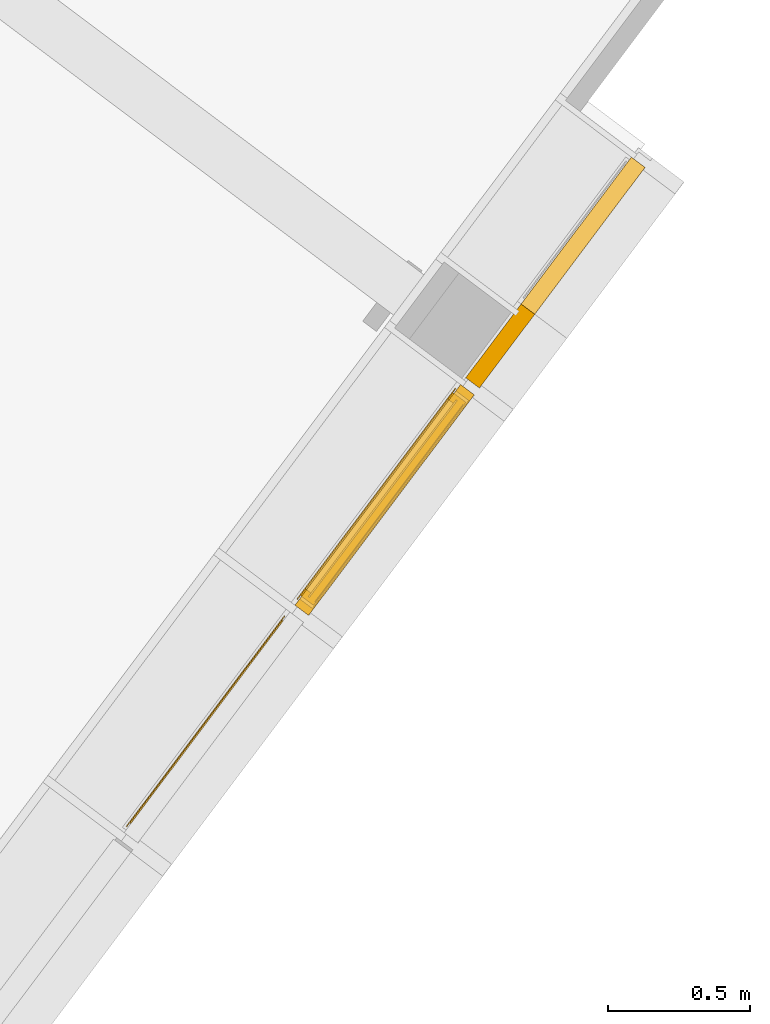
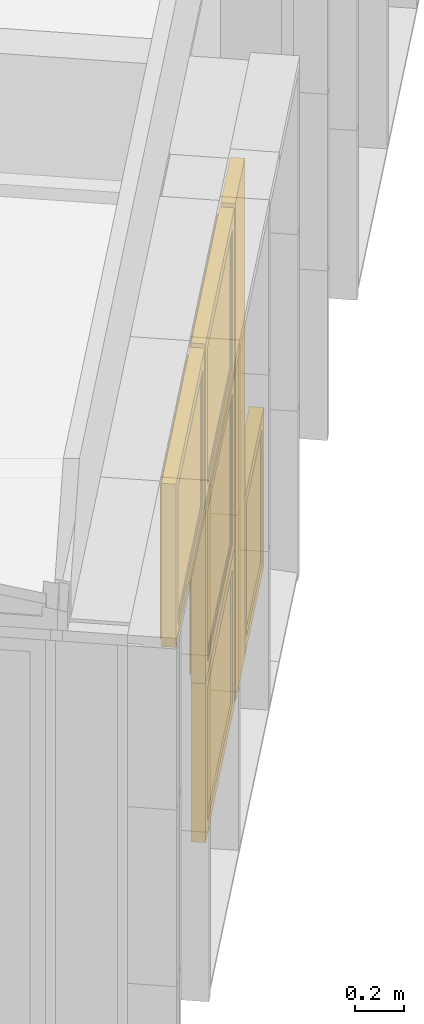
# One storey, part 144 of 243: 5 windows, 1 door, 1 element without a shape of its own.
"""IFC2X3 building model written with IfcOpenShell, lengths in metres."""

from ifc_helpers import new_model, entity, si_unit, converted_unit, derived_unit, direction, frame, origin, origin_2d_with_axis, place, context, subcontext, project, spatial, rectangle, extrude, faceted_brep, source, transform, mapped, material, material_list, type_object, type_shapes, element, aggregate, save


model = new_model("IFC2X3")

# Units and contexts
model_context = context("Model", 3, precision=1e-05, world=origin(), true_north=direction((6.123031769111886e-17, 1.0)))
body_context = subcontext(model_context, "Body", "Model", "MODEL_VIEW")
ifc_project = project(units=[si_unit("LENGTHUNIT", "METRE"), si_unit("AREAUNIT", "SQUARE_METRE"), si_unit("VOLUMEUNIT", "CUBIC_METRE"), converted_unit("PLANEANGLEUNIT", "DEGREE", entity("IfcRatioMeasure", 0.017453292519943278), si_unit("PLANEANGLEUNIT", "RADIAN"), dimensions=[0, 0, 0, 0, 0, 0, 0]), si_unit("MASSUNIT", "GRAM", prefix="KILO"), derived_unit("MASSDENSITYUNIT", [(si_unit("MASSUNIT", "GRAM", prefix="KILO"), 1), (si_unit("LENGTHUNIT", "METRE"), -3)]), derived_unit("IONCONCENTRATIONUNIT", [(si_unit("MASSUNIT", "GRAM", prefix="KILO"), 1), (si_unit("LENGTHUNIT", "METRE"), -3)]), derived_unit("MOMENTOFINERTIAUNIT", [(si_unit("LENGTHUNIT", "METRE"), 4)]), si_unit("TIMEUNIT", "SECOND"), si_unit("FREQUENCYUNIT", "HERTZ"), si_unit("THERMODYNAMICTEMPERATUREUNIT", "DEGREE_CELSIUS"), derived_unit("THERMALTRANSMITTANCEUNIT", [(si_unit("MASSUNIT", "GRAM", prefix="KILO"), 1), (si_unit("THERMODYNAMICTEMPERATUREUNIT", "KELVIN"), -1), (si_unit("TIMEUNIT", "SECOND"), -3)]), derived_unit("THERMALCONDUCTANCEUNIT", [(si_unit("MASSUNIT", "GRAM", prefix="KILO"), 1), (si_unit("THERMODYNAMICTEMPERATUREUNIT", "KELVIN"), -1), (si_unit("TIMEUNIT", "SECOND"), -3), (si_unit("LENGTHUNIT", "METRE"), 1)]), derived_unit("VOLUMETRICFLOWRATEUNIT", [(si_unit("LENGTHUNIT", "METRE"), 3), (si_unit("TIMEUNIT", "SECOND"), -1)]), derived_unit("MASSFLOWRATEUNIT", [(si_unit("MASSUNIT", "GRAM", prefix="KILO"), 1), (si_unit("TIMEUNIT", "SECOND"), -1)]), derived_unit("ROTATIONALFREQUENCYUNIT", [(si_unit("TIMEUNIT", "SECOND"), -1)]), si_unit("ELECTRICCURRENTUNIT", "AMPERE"), si_unit("ELECTRICVOLTAGEUNIT", "VOLT"), si_unit("POWERUNIT", "WATT"), si_unit("FORCEUNIT", "NEWTON", prefix="KILO"), si_unit("ILLUMINANCEUNIT", "LUX"), si_unit("LUMINOUSFLUXUNIT", "LUMEN"), si_unit("LUMINOUSINTENSITYUNIT", "CANDELA"), derived_unit("USERDEFINED", [(si_unit("MASSUNIT", "GRAM", prefix="KILO"), -1), (si_unit("LENGTHUNIT", "METRE"), -2), (si_unit("TIMEUNIT", "SECOND"), 3), (si_unit("LUMINOUSFLUXUNIT", "LUMEN"), 1)]), derived_unit("USERDEFINED", [(si_unit("MASSUNIT", "GRAM", prefix="KILO"), 1), (si_unit("TIMEUNIT", "SECOND"), -3), (si_unit("LENGTHUNIT", "METRE"), 3), (si_unit("ELECTRICCURRENTUNIT", "AMPERE"), -2)]), derived_unit("SOUNDPOWERUNIT", [(si_unit("MASSUNIT", "GRAM", prefix="KILO"), 1), (si_unit("TIMEUNIT", "SECOND"), -3), (si_unit("LENGTHUNIT", "METRE"), 2)]), derived_unit("SOUNDPRESSUREUNIT", [(si_unit("MASSUNIT", "GRAM", prefix="KILO"), 1), (si_unit("LENGTHUNIT", "METRE"), -1), (si_unit("TIMEUNIT", "SECOND"), -2)]), derived_unit("LINEARVELOCITYUNIT", [(si_unit("LENGTHUNIT", "METRE"), 1), (si_unit("TIMEUNIT", "SECOND"), -1)]), si_unit("PRESSUREUNIT", "PASCAL"), derived_unit("USERDEFINED", [(si_unit("MASSUNIT", "GRAM", prefix="KILO"), 1), (si_unit("LENGTHUNIT", "METRE"), -2), (si_unit("TIMEUNIT", "SECOND"), -2)]), derived_unit("LINEARFORCEUNIT", [(si_unit("MASSUNIT", "GRAM", prefix="KILO"), 1), (si_unit("TIMEUNIT", "SECOND"), -2)]), derived_unit("PLANARFORCEUNIT", [(si_unit("MASSUNIT", "GRAM", prefix="KILO"), 1), (si_unit("LENGTHUNIT", "METRE"), -1), (si_unit("TIMEUNIT", "SECOND"), -2)]), derived_unit("SPECIFICHEATCAPACITYUNIT", [(si_unit("THERMODYNAMICTEMPERATUREUNIT", "KELVIN"), -1), (si_unit("LENGTHUNIT", "METRE"), 2), (si_unit("TIMEUNIT", "SECOND"), -2)]), derived_unit("HEATINGVALUEUNIT", [(si_unit("LENGTHUNIT", "METRE"), 2), (si_unit("TIMEUNIT", "SECOND"), -2)]), derived_unit("VAPORPERMEABILITYUNIT", [(si_unit("LENGTHUNIT", "METRE"), -1), (si_unit("TIMEUNIT", "SECOND"), 1)]), derived_unit("DYNAMICVISCOSITYUNIT", [(si_unit("MASSUNIT", "GRAM", prefix="KILO"), 1), (si_unit("TIMEUNIT", "SECOND"), -1), (si_unit("LENGTHUNIT", "METRE"), -1)]), derived_unit("THERMALEXPANSIONCOEFFICIENTUNIT", [(si_unit("THERMODYNAMICTEMPERATUREUNIT", "KELVIN"), -1)]), derived_unit("MODULUSOFELASTICITYUNIT", [(si_unit("MASSUNIT", "GRAM", prefix="KILO"), 1), (si_unit("LENGTHUNIT", "METRE"), -1), (si_unit("TIMEUNIT", "SECOND"), -2)]), derived_unit("ISOTHERMALMOISTURECAPACITYUNIT", [(si_unit("LENGTHUNIT", "METRE"), 3), (si_unit("MASSUNIT", "GRAM", prefix="KILO"), -1)]), derived_unit("MOISTUREDIFFUSIVITYUNIT", [(si_unit("TIMEUNIT", "SECOND"), -1), (si_unit("LENGTHUNIT", "METRE"), 2)])], contexts=[model_context])

# Site, building, storey
site_placement = place(None, frame((0.0, 0.0, 235.0), z_axis=(0.0, 0.0, 1.0), x_axis=(-0.7996477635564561, 0.6004693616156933, 0.0)))
site = spatial("IfcSite", under=ifc_project, at=site_placement, Name="Default", CompositionType="ELEMENT")
building_placement = place(site_placement, origin())
building = spatial("IfcBuilding", under=site, at=building_placement, CompositionType="ELEMENT")
storey_placement = place(building_placement, origin())
storey = spatial("IfcBuildingStorey", under=building, at=storey_placement, Name="P0- Escola", CompositionType="ELEMENT", Elevation=0.0)

# Curtain wall, windows, door
curtain_wall_type = type_object("IfcCurtainWallType", Name="Muro cortina:MC- EXT- MC2", PredefinedType="NOTDEFINED")
curtain_wall_placement = place(storey_placement, origin())
curtain_wall = element("IfcCurtainWall", 1, at=curtain_wall_placement, inside=storey, type_object=curtain_wall_type, Name="Muro cortina:MC- EXT- MC2", ObjectType="Muro cortina:MC- EXT- MC2")
ifc_material_1 = material(Name="_Vidre")
ifc_material_2 = material(Name="_Alumini- T1- Perfil")
ifc_material_list_1 = material_list([ifc_material_1, ifc_material_2])
window_style_1 = type_object("IfcWindowStyle", Name="MC- Alu- Conjunt vidre fix- 62x60 cm:MC- Alu- Conjunt vidre fix- 62x60 cm", ConstructionType="NOTDEFINED", OperationType="NOTDEFINED", ParameterTakesPrecedence=False, Sizeable=False, material=ifc_material_list_1)
shared_shape_1 = source(origin(), body_context, "Body", "Brep", [
    faceted_brep([(0.4361932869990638, -0.007600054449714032, 0.048806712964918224), (0.4361932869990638, -0.03160022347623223, 0.048806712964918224), (-0.4361932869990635, -0.03160022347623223, 0.048806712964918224), (-0.4361932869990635, -0.007600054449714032, 0.048806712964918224), (0.4361932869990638, -0.007600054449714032, 0.7387000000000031), (-0.4361932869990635, -0.007600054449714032, 0.7387000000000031), (-0.4361932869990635, -0.03160022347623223, 0.7387000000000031), (0.4361932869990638, -0.03160022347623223, 0.7387000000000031)], [[[0, 1, 2, 3]], [[4, 0, 3, 5]], [[5, 3, 2, 6]], [[6, 2, 1, 7]], [[7, 1, 0, 4]], [[4, 5, 6, 7]]]),
    faceted_brep([(0.48499999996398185, -0.05999999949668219, 0.7877000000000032), (0.48499999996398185, -0.05999999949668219, 0.0), (0.48499999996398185, 0.0, 0.0), (0.48499999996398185, 0.0, 0.787700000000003), (-0.48499999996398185, 0.0, 0.7877000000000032), (-0.48499999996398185, 0.0, 0.0), (0.4221931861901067, 0.0, 0.7248931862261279), (-0.42219318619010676, 0.0, 0.724893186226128), (-0.4221931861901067, 0.0, 0.0628068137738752), (0.4221931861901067, 0.0, 0.06280681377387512), (-0.48499999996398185, -0.05999999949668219, 0.0), (-0.48499999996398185, -0.05999999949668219, 0.7877000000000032), (-0.42219603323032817, -0.05999999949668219, 0.7248960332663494), (0.42219603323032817, -0.05999999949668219, 0.7248960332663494), (0.42219603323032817, -0.05999999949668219, 0.0628039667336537), (-0.42219603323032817, -0.05999999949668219, 0.0628039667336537), (0.4221960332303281, -0.03160022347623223, 0.7248960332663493), (0.42219603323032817, -0.03160022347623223, 0.0628039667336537), (-0.42219603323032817, -0.03160022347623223, 0.06280396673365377), (-0.42219603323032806, -0.03160022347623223, 0.7248960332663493), (-0.43619328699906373, -0.03160022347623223, 0.738893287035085), (0.43619328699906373, -0.03160022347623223, 0.738893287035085), (0.43619328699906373, -0.03160022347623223, 0.048806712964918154), (-0.43619328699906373, -0.03160022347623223, 0.04880671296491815), (0.43619328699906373, -0.007600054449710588, 0.738893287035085), (0.43619328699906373, -0.007600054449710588, 0.04880671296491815), (-0.43619328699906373, -0.007600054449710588, 0.048806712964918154), (-0.43619328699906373, -0.007600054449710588, 0.738893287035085), (-0.42219318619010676, -0.007600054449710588, 0.724893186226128), (0.42219318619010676, -0.007600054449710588, 0.724893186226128), (0.42219318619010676, -0.007600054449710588, 0.06280681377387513), (-0.42219318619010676, -0.007600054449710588, 0.06280681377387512)], [[[0, 1, 2, 3]], [[4, 3, 2, 5], [6, 7, 8, 9]], [[1, 10, 5, 2]], [[0, 11, 10, 1], [12, 13, 14, 15]], [[16, 17, 14, 13]], [[17, 18, 15, 14]], [[16, 19, 18, 17], [20, 21, 22, 23]], [[24, 25, 22, 21]], [[25, 26, 23, 22]], [[24, 27, 26, 25], [28, 29, 30, 31]], [[6, 9, 30, 29]], [[9, 8, 31, 30]], [[10, 11, 4, 5]], [[18, 19, 12, 15]], [[26, 27, 20, 23]], [[8, 7, 28, 31]], [[11, 0, 3, 4]], [[19, 16, 13, 12]], [[27, 24, 21, 20]], [[7, 6, 29, 28]]], outer=[[True], [True, False], [True], [True, False], [True], [True], [False, True], [True], [True], [True, False], [True], [True], [True], [True], [True], [True], [True], [True], [True], [True]]),
])
type_shapes(window_style_1, [shared_shape_1])
window_1_placement = place(curtain_wall_placement, frame((41.04514768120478, -22.915191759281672, 0.03229999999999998), z_axis=(0.0, 0.0, 1.0), x_axis=(0.0, 1.0, 0.0)))
window_1 = element("IfcWindow", 2, at=window_1_placement, type_object=window_style_1, material=ifc_material_list_1, Name="MC- Alu- Conjunt vidre fix- 62x60 cm:MC- Alu- Conjunt vidre fix- 62x60 cm", ObjectType="MC- Alu- Conjunt vidre fix- 62x60 cm:MC- Alu- Conjunt vidre fix- 62x60 cm", OverallHeight=0.7877000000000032, OverallWidth=0.9699999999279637, context=body_context, shape_type="MappedRepresentation", body=[
    mapped(shared_shape_1, transform((0.0, 0.0, 0.0), scale=1.0)),
])
ifc_material_3 = material(Name="_Aillament")
ifc_material_list_2 = material_list([ifc_material_2, ifc_material_3])
door_style = type_object("IfcDoorStyle", Name="MC- Alu- panell especific xapa:MC- Alu- panell especific xapa", ConstructionType="NOTDEFINED", OperationType="NOTDEFINED", ParameterTakesPrecedence=False, Sizeable=False, material=ifc_material_list_2)
shared_shape_2 = source(origin(), body_context, "Body", "SweptSolid", [
    extrude(rectangle(XDim=0.005999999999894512, YDim=0.32412629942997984, at=origin_2d_with_axis()), frame((0.0, -0.057000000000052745, 0.0), z_axis=(0.0, 0.0, 1.0), x_axis=(0.0, -1.0, 0.0)), (0.0, 0.0, 1.0), 2.471449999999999),
    extrude(rectangle(XDim=0.32412629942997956, YDim=0.048000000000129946, at=origin_2d_with_axis()), frame((0.0, -0.030000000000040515, 0.0)), (0.0, 0.0, 1.0), 2.471449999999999),
    extrude(rectangle(XDim=0.005999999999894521, YDim=0.3241262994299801, at=origin_2d_with_axis()), frame((0.0, -0.003000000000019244, 0.0), z_axis=(0.0, 0.0, 1.0), x_axis=(0.0, -1.0, 0.0)), (0.0, 0.0, 1.0), 2.471449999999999),
])
type_shapes(door_style, [shared_shape_2])
door_placement = place(curtain_wall_placement, frame((41.045147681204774, -23.592254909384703, 0.03229999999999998), z_axis=(0.0, 0.0, 1.0), x_axis=(0.0, 1.0, 0.0)))
door = element("IfcDoor", 3, at=door_placement, type_object=door_style, material=ifc_material_list_2, Name="MC- Alu- panell especific xapa:MC- Alu- panell especific xapa", ObjectType="MC- Alu- panell especific xapa:MC- Alu- panell especific xapa", OverallHeight=2.471449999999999, OverallWidth=0.3241262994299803, context=body_context, shape_type="MappedRepresentation", body=[
    mapped(shared_shape_2, transform((0.0, 0.0, 0.0), scale=1.0)),
])
window_style_2 = type_object("IfcWindowStyle", Name="MC- Alu- Conjunt vidre fix- 62x60 cm:MC- Alu- Conjunt vidre fix- 62x60 cm", ConstructionType="NOTDEFINED", OperationType="NOTDEFINED", ParameterTakesPrecedence=False, Sizeable=False, material=ifc_material_list_1)
shared_shape_3 = source(origin(), body_context, "Body", "Brep", [
    faceted_brep([(0.2741301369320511, -0.007600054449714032, 0.048806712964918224), (0.2741301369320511, -0.03160022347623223, 0.048806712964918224), (-0.27413013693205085, -0.03160022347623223, 0.048806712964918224), (-0.27413013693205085, -0.007600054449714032, 0.048806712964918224), (0.2741301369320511, -0.007600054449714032, 0.7387000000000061), (-0.27413013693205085, -0.007600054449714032, 0.7387000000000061), (-0.27413013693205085, -0.03160022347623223, 0.7387000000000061), (0.2741301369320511, -0.03160022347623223, 0.7387000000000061)], [[[0, 1, 2, 3]], [[4, 0, 3, 5]], [[5, 3, 2, 6]], [[6, 2, 1, 7]], [[7, 1, 0, 4]], [[4, 5, 6, 7]]]),
    faceted_brep([(0.3229368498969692, -0.05999999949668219, 0.7877000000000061), (0.3229368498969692, -0.05999999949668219, 0.0), (0.3229368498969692, 0.0, 0.0), (0.3229368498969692, 0.0, 0.7877000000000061), (-0.3229368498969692, 0.0, 0.7877000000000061), (-0.3229368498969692, 0.0, 0.0), (0.260130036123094, 0.0, 0.724893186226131), (-0.260130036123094, 0.0, 0.7248931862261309), (-0.2601300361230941, 0.0, 0.06280681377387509), (0.260130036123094, 0.0, 0.06280681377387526), (-0.3229368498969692, -0.05999999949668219, 0.0), (-0.3229368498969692, -0.05999999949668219, 0.7877000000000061), (-0.2601328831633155, -0.05999999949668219, 0.7248960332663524), (0.2601328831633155, -0.05999999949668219, 0.7248960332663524), (0.2601328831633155, -0.05999999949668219, 0.0628039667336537), (-0.2601328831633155, -0.05999999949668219, 0.0628039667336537), (0.2601328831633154, -0.03160022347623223, 0.7248960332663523), (0.2601328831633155, -0.03160022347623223, 0.0628039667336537), (-0.2601328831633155, -0.03160022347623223, 0.06280396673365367), (-0.2601328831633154, -0.03160022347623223, 0.7248960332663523), (-0.274130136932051, -0.03160022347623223, 0.7388932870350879), (0.274130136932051, -0.03160022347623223, 0.7388932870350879), (0.274130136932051, -0.03160022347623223, 0.048806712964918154), (-0.274130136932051, -0.03160022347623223, 0.04880671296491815), (0.274130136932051, -0.007600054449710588, 0.7388932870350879), (0.274130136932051, -0.007600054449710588, 0.04880671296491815), (-0.274130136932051, -0.007600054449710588, 0.048806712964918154), (-0.274130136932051, -0.007600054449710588, 0.7388932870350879), (-0.26013003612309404, -0.007600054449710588, 0.724893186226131), (0.26013003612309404, -0.007600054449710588, 0.724893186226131), (0.26013003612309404, -0.007600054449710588, 0.06280681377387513), (-0.26013003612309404, -0.007600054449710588, 0.06280681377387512)], [[[0, 1, 2, 3]], [[4, 3, 2, 5], [6, 7, 8, 9]], [[1, 10, 5, 2]], [[0, 11, 10, 1], [12, 13, 14, 15]], [[16, 17, 14, 13]], [[17, 18, 15, 14]], [[16, 19, 18, 17], [20, 21, 22, 23]], [[24, 25, 22, 21]], [[25, 26, 23, 22]], [[24, 27, 26, 25], [28, 29, 30, 31]], [[6, 9, 30, 29]], [[9, 8, 31, 30]], [[10, 11, 4, 5]], [[18, 19, 12, 15]], [[26, 27, 20, 23]], [[8, 7, 28, 31]], [[11, 0, 3, 4]], [[19, 16, 13, 12]], [[27, 24, 21, 20]], [[7, 6, 29, 28]]], outer=[[True], [True, False], [True], [True, False], [True], [True], [False, True], [True], [True], [True, False], [True], [True], [True], [True], [True], [True], [True], [True], [True], [True]]),
])
type_shapes(window_style_2, [shared_shape_3])
window_2_placement = place(curtain_wall_placement, frame((41.045147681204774, -24.077254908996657, 0.03229999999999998), z_axis=(0.0, 0.0, 1.0), x_axis=(0.0, 1.0, 0.0)))
window_2 = element("IfcWindow", 4, at=window_2_placement, type_object=window_style_2, material=ifc_material_list_1, Name="MC- Alu- Conjunt vidre fix- 62x60 cm:MC- Alu- Conjunt vidre fix- 62x60 cm", ObjectType="MC- Alu- Conjunt vidre fix- 62x60 cm:MC- Alu- Conjunt vidre fix- 62x60 cm", OverallHeight=0.7877000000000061, OverallWidth=0.6458736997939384, context=body_context, shape_type="MappedRepresentation", body=[
    mapped(shared_shape_3, transform((0.0, 0.0, 0.0), scale=1.0)),
])
window_style_3 = type_object("IfcWindowStyle", Name="MC- Alu- Conjunt finestra basculant- 68x68 cm:MC- Alu- Conjunt finestra basculant- 68x68 cm", ConstructionType="NOTDEFINED", OperationType="NOTDEFINED", ParameterTakesPrecedence=False, Sizeable=False, material=ifc_material_list_1)
shared_shape_4 = source(origin(), body_context, "Body", "Brep", [
    faceted_brep([(0.43291170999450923, -0.03559830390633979, 0.051999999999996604), (-0.43291170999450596, -0.03559830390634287, 0.051999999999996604), (-0.43291170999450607, -0.011598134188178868, 0.051999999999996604), (0.43291170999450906, -0.011598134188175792, 0.051999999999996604), (0.43291170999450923, -0.035598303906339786, 0.8228027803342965), (0.43291170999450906, -0.011598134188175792, 0.8228027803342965), (-0.43291170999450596, -0.011598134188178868, 0.8228027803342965), (-0.43291170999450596, -0.03559830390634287, 0.8228027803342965)], [[[0, 1, 2, 3]], [[4, 0, 3, 5]], [[5, 3, 2, 6]], [[6, 2, 1, 7]], [[7, 1, 0, 4]], [[4, 5, 6, 7]]]),
    faceted_brep([(-0.4172108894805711, -0.009998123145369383, 0.8071019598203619), (-0.4172108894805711, -0.00999812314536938, 0.06789804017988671), (-0.4172108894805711, -0.007998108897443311, 0.06789804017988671), (-0.4172108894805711, -0.007998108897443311, 0.8071019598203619), (-0.44610892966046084, -0.007998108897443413, 0.8360000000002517), (0.44610892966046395, -0.007998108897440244, 0.8360000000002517), (0.44610892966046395, -0.007998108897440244, 0.03899999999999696), (-0.44610892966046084, -0.007998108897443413, 0.03899999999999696), (0.4172108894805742, -0.007998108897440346, 0.8071019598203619), (0.4172108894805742, -0.007998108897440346, 0.06789804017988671), (0.4172108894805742, -0.009998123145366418, 0.06789804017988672), (0.4172108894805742, -0.009998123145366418, 0.8071019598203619), (0.4329117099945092, -0.00999812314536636, 0.8228027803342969), (-0.43291170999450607, -0.009998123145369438, 0.8228027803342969), (-0.43291170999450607, -0.009998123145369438, 0.05219721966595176), (0.4329117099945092, -0.00999812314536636, 0.052197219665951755), (-0.4329117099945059, -0.04079986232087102, 0.8228027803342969), (-0.4329117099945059, -0.04079986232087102, 0.052197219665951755), (0.4329117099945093, -0.04079986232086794, 0.05219721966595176), (0.4329117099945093, -0.04079986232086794, 0.8228027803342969), (0.41721088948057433, -0.040799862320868, 0.8071019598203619), (-0.41721088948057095, -0.04079986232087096, 0.8071019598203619), (-0.41721088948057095, -0.04079986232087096, 0.06789804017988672), (0.41721088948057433, -0.040799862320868, 0.06789804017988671), (-0.4172108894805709, -0.06800005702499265, 0.8071019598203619), (-0.4172108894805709, -0.06800005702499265, 0.06789804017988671), (0.4172108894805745, -0.0680000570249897, 0.06789804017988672), (0.4172108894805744, -0.0680000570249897, 0.8071019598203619), (0.4636128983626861, -0.06800005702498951, 0.8535039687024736), (-0.4636128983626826, -0.06800005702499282, 0.8535039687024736), (-0.4636128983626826, -0.06800005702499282, 0.021496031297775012), (0.4636128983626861, -0.06800005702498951, 0.021496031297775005), (-0.4636128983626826, -0.0645000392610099, 0.8535039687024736), (-0.4636128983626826, -0.06450003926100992, 0.021496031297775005), (0.4636128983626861, -0.06450003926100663, 0.021496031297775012), (0.4636128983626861, -0.06450003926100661, 0.8535039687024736), (0.44610892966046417, -0.06450003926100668, 0.8360000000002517), (-0.4461089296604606, -0.06450003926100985, 0.8360000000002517), (-0.4461089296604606, -0.06450003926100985, 0.03899999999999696), (0.44610892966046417, -0.06450003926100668, 0.038999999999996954)], [[[0, 1, 2, 3]], [[4, 5, 6, 7], [8, 3, 2, 9]], [[1, 10, 9, 2]], [[0, 11, 10, 1], [12, 13, 14, 15]], [[16, 17, 14, 13]], [[17, 18, 15, 14]], [[16, 19, 18, 17], [20, 21, 22, 23]], [[24, 25, 22, 21]], [[25, 26, 23, 22]], [[24, 27, 26, 25], [28, 29, 30, 31]], [[32, 33, 30, 29]], [[33, 34, 31, 30]], [[32, 35, 34, 33], [36, 37, 38, 39]], [[4, 7, 38, 37]], [[7, 6, 39, 38]], [[10, 11, 8, 9]], [[18, 19, 12, 15]], [[26, 27, 20, 23]], [[34, 35, 28, 31]], [[6, 5, 36, 39]], [[11, 0, 3, 8]], [[19, 16, 13, 12]], [[27, 24, 21, 20]], [[35, 32, 29, 28]], [[5, 4, 37, 36]]], outer=[[True], [True, False], [True], [False, True], [True], [True], [True, False], [True], [True], [False, True], [True], [True], [True, False], [True], [True], [True], [True], [True], [True], [True], [True], [True], [True], [True], [True]]),
    faceted_brep([(0.42219318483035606, 0.0, 0.8121931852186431), (0.42219318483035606, 0.0, 0.06280681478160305), (0.42219318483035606, -0.0040000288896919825, 0.06280681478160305), (0.42219318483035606, -0.0040000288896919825, 0.8121931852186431), (-0.42219318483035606, -0.0040000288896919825, 0.8121931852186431), (-0.42219318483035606, -0.0040000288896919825, 0.06280681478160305), (0.4575998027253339, -0.0040000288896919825, 0.8475998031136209), (-0.4575998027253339, -0.0040000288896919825, 0.8475998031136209), (-0.4575998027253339, -0.0040000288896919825, 0.027400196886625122), (0.4575998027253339, -0.0040000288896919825, 0.02740019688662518), (-0.42219318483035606, 0.0, 0.06280681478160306), (-0.42219318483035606, 0.0, 0.8121931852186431), (-0.48499999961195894, 0.0, 0.875000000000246), (0.48499999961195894, 0.0, 0.875000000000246), (0.48499999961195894, 0.0, 0.0), (-0.48499999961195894, 0.0, 0.0), (0.48499999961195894, -0.05999999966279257, 0.875000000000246), (0.48499999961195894, -0.05999999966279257, 0.0), (-0.48499999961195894, -0.05999999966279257, 0.0), (-0.48499999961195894, -0.05999999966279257, 0.875000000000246), (-0.4575998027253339, -0.05999999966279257, 0.8475998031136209), (0.4575998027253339, -0.05999999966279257, 0.8475998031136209), (0.4575998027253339, -0.05999999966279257, 0.027400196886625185), (-0.4575998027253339, -0.05999999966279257, 0.02740019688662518)], [[[0, 1, 2, 3]], [[4, 3, 2, 5], [6, 7, 8, 9]], [[1, 10, 5, 2]], [[0, 11, 10, 1], [12, 13, 14, 15]], [[16, 17, 14, 13]], [[17, 18, 15, 14]], [[16, 19, 18, 17], [20, 21, 22, 23]], [[6, 9, 22, 21]], [[9, 8, 23, 22]], [[10, 11, 4, 5]], [[18, 19, 12, 15]], [[8, 7, 20, 23]], [[11, 0, 3, 4]], [[19, 16, 13, 12]], [[7, 6, 21, 20]]], outer=[[True], [False, True], [True], [False, True], [True], [True], [True, False], [True], [True], [True], [True], [True], [True], [True], [True]]),
])
type_shapes(window_style_3, [shared_shape_4])
window_3_placement = place(curtain_wall_placement, frame((41.04514768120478, -22.915191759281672, 0.8200000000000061), z_axis=(0.0, 0.0, 1.0), x_axis=(0.0, 1.0, 0.0)))
window_3 = element("IfcWindow", 5, at=window_3_placement, type_object=window_style_3, material=ifc_material_list_1, Name="MC- Alu- Conjunt finestra basculant- 68x68 cm:MC- Alu- Conjunt finestra basculant- 68x68 cm", ObjectType="MC- Alu- Conjunt finestra basculant- 68x68 cm:MC- Alu- Conjunt finestra basculant- 68x68 cm", OverallHeight=0.8750000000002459, OverallWidth=0.9699999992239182, context=body_context, shape_type="MappedRepresentation", body=[
    mapped(shared_shape_4, transform((0.0, 0.0, 0.0), scale=1.0)),
])
window_style_4 = type_object("IfcWindowStyle", Name="MC- Alu- Conjunt finestra basculant- 68x68 cm:MC- Alu- Conjunt finestra basculant- 68x68 cm", ConstructionType="NOTDEFINED", OperationType="NOTDEFINED", ParameterTakesPrecedence=False, Sizeable=False, material=ifc_material_list_1)
shared_shape_5 = source(origin(), body_context, "Body", "Brep", [
    faceted_brep([(0.432911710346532, -0.03559830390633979, 0.051999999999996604), (-0.43291171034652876, -0.03559830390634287, 0.051999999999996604), (-0.4329117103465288, -0.011598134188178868, 0.051999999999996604), (0.43291171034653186, -0.011598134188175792, 0.051999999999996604), (0.432911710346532, -0.035598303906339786, 0.7565527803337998), (0.43291171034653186, -0.011598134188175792, 0.7565527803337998), (-0.43291171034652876, -0.011598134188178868, 0.7565527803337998), (-0.43291171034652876, -0.03559830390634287, 0.7565527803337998)], [[[0, 1, 2, 3]], [[4, 0, 3, 5]], [[5, 3, 2, 6]], [[6, 2, 1, 7]], [[7, 1, 0, 4]], [[4, 5, 6, 7]]]),
    faceted_brep([(-0.41721088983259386, -0.009998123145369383, 0.7408519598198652), (-0.41721088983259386, -0.00999812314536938, 0.06789804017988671), (-0.41721088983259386, -0.007998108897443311, 0.06789804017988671), (-0.41721088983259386, -0.007998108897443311, 0.7408519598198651), (-0.4461089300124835, -0.007998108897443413, 0.7697499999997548), (0.44610893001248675, -0.007998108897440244, 0.7697499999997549), (0.4461089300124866, -0.007998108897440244, 0.03899999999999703), (-0.44610893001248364, -0.007998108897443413, 0.03899999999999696), (0.41721088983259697, -0.007998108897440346, 0.7408519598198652), (0.41721088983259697, -0.007998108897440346, 0.06789804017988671), (0.41721088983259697, -0.009998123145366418, 0.06789804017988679), (0.41721088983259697, -0.009998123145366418, 0.7408519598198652), (0.4329117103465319, -0.00999812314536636, 0.7565527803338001), (-0.4329117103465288, -0.009998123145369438, 0.7565527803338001), (-0.4329117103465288, -0.009998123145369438, 0.05219721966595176), (0.4329117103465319, -0.00999812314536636, 0.052197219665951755), (-0.4329117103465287, -0.04079986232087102, 0.7565527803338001), (-0.4329117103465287, -0.04079986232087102, 0.052197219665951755), (0.4329117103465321, -0.04079986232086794, 0.05219721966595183), (0.4329117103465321, -0.04079986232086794, 0.7565527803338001), (0.41721088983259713, -0.040799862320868, 0.7408519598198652), (-0.41721088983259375, -0.04079986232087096, 0.7408519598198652), (-0.41721088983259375, -0.04079986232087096, 0.06789804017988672), (0.41721088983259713, -0.040799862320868, 0.06789804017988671), (-0.4172108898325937, -0.06800005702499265, 0.7408519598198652), (-0.4172108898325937, -0.06800005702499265, 0.06789804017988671), (0.41721088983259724, -0.0680000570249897, 0.06789804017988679), (0.4172108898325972, -0.0680000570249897, 0.7408519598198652), (0.4636128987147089, -0.06800005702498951, 0.7872539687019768), (-0.46361289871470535, -0.06800005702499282, 0.7872539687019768), (-0.46361289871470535, -0.06800005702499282, 0.021496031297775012), (0.4636128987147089, -0.06800005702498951, 0.021496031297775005), (-0.46361289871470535, -0.0645000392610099, 0.7872539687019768), (-0.46361289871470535, -0.06450003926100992, 0.021496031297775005), (0.4636128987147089, -0.06450003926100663, 0.02149603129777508), (0.4636128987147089, -0.06450003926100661, 0.7872539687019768), (0.4461089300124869, -0.06450003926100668, 0.7697499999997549), (-0.4461089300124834, -0.06450003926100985, 0.7697499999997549), (-0.4461089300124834, -0.06450003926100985, 0.03899999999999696), (0.4461089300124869, -0.06450003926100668, 0.038999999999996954)], [[[0, 1, 2, 3]], [[4, 5, 6, 7], [8, 3, 2, 9]], [[1, 10, 9, 2]], [[0, 11, 10, 1], [12, 13, 14, 15]], [[16, 17, 14, 13]], [[17, 18, 15, 14]], [[16, 19, 18, 17], [20, 21, 22, 23]], [[24, 25, 22, 21]], [[25, 26, 23, 22]], [[24, 27, 26, 25], [28, 29, 30, 31]], [[32, 33, 30, 29]], [[33, 34, 31, 30]], [[32, 35, 34, 33], [36, 37, 38, 39]], [[4, 7, 38, 37]], [[7, 6, 39, 38]], [[10, 11, 8, 9]], [[18, 19, 12, 15]], [[26, 27, 20, 23]], [[34, 35, 28, 31]], [[6, 5, 36, 39]], [[11, 0, 3, 8]], [[19, 16, 13, 12]], [[27, 24, 21, 20]], [[35, 32, 29, 28]], [[5, 4, 37, 36]]], outer=[[True], [True, False], [True], [False, True], [True], [True], [True, False], [True], [True], [False, True], [True], [True], [True, False], [True], [True], [True], [True], [True], [True], [True], [True], [True], [True], [True], [True]]),
    faceted_brep([(0.4221931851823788, 0.0, 0.7459431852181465), (0.4221931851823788, 0.0, 0.06280681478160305), (0.4221931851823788, -0.0040000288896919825, 0.06280681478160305), (0.4221931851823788, -0.0040000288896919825, 0.7459431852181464), (-0.4221931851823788, -0.0040000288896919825, 0.7459431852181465), (-0.4221931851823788, -0.0040000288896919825, 0.06280681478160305), (0.4575998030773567, -0.0040000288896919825, 0.7813498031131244), (-0.4575998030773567, -0.0040000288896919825, 0.7813498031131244), (-0.4575998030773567, -0.0040000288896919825, 0.027400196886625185), (0.4575998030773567, -0.0040000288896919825, 0.02740019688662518), (-0.4221931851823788, 0.0, 0.06280681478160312), (-0.4221931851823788, 0.0, 0.7459431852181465), (-0.48499999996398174, 0.0, 0.8087499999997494), (0.48499999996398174, 0.0, 0.8087499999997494), (0.48499999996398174, 0.0, 0.0), (-0.48499999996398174, 0.0, 0.0), (0.48499999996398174, -0.05999999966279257, 0.8087499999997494), (0.48499999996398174, -0.05999999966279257, 0.0), (-0.48499999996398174, -0.05999999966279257, 0.0), (-0.48499999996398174, -0.05999999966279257, 0.8087499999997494), (-0.4575998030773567, -0.05999999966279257, 0.7813498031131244), (0.4575998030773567, -0.05999999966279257, 0.7813498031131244), (0.4575998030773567, -0.05999999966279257, 0.027400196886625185), (-0.4575998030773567, -0.05999999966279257, 0.02740019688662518)], [[[0, 1, 2, 3]], [[4, 3, 2, 5], [6, 7, 8, 9]], [[1, 10, 5, 2]], [[0, 11, 10, 1], [12, 13, 14, 15]], [[16, 17, 14, 13]], [[17, 18, 15, 14]], [[16, 19, 18, 17], [20, 21, 22, 23]], [[6, 9, 22, 21]], [[9, 8, 23, 22]], [[10, 11, 4, 5]], [[18, 19, 12, 15]], [[8, 7, 20, 23]], [[11, 0, 3, 4]], [[19, 16, 13, 12]], [[7, 6, 21, 20]]], outer=[[True], [False, True], [True], [False, True], [True], [True], [True, False], [True], [True], [True], [True], [True], [True], [True], [True]]),
])
type_shapes(window_style_4, [shared_shape_5])
window_4_placement = place(curtain_wall_placement, frame((41.04514768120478, -21.91519175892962, 1.6950000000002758), z_axis=(0.0, 0.0, 1.0), x_axis=(0.0, 1.0, 0.0)))
window_4 = element("IfcWindow", 6, at=window_4_placement, type_object=window_style_4, material=ifc_material_list_1, Name="MC- Alu- Conjunt finestra basculant- 68x68 cm:MC- Alu- Conjunt finestra basculant- 68x68 cm", ObjectType="MC- Alu- Conjunt finestra basculant- 68x68 cm:MC- Alu- Conjunt finestra basculant- 68x68 cm", OverallHeight=0.8087499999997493, OverallWidth=0.9699999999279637, context=body_context, shape_type="MappedRepresentation", body=[
    mapped(shared_shape_5, transform((0.0, 0.0, 0.0), scale=1.0)),
])
window_5_placement = place(curtain_wall_placement, frame((41.04514768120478, -22.91519175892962, 1.6950000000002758), z_axis=(0.0, 0.0, 1.0), x_axis=(0.0, 1.0, 0.0)))
window_5 = element("IfcWindow", 7, at=window_5_placement, type_object=window_style_4, material=ifc_material_list_1, Name="MC- Alu- Conjunt finestra basculant- 68x68 cm:MC- Alu- Conjunt finestra basculant- 68x68 cm", ObjectType="MC- Alu- Conjunt finestra basculant- 68x68 cm:MC- Alu- Conjunt finestra basculant- 68x68 cm", OverallHeight=0.8087499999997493, OverallWidth=0.9699999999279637, context=body_context, shape_type="MappedRepresentation", body=[
    mapped(shared_shape_5, transform((0.0, 0.0, 0.0), scale=1.0)),
])
aggregate(curtain_wall, [window_1, door, window_2, window_3, window_4, window_5])

save(model, "model.ifc")
